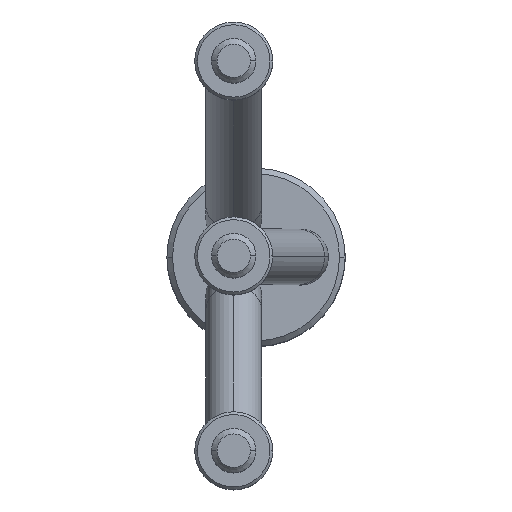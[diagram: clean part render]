
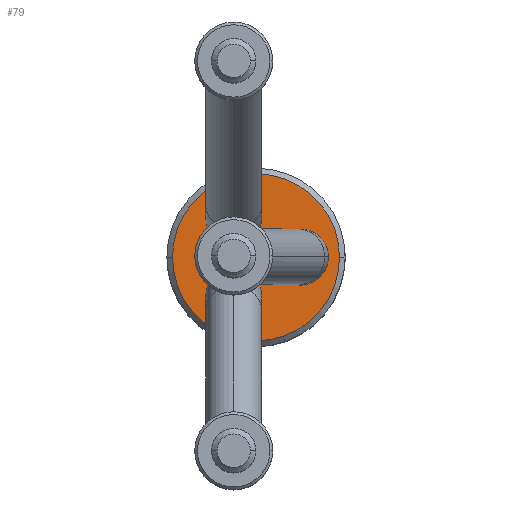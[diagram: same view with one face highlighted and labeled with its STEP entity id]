
A CAD part, top view. The second image highlights one B-rep face of the part: STEP entity #79.
In plain terms, the highlighted planar face has unit normal (0, 0, 1).
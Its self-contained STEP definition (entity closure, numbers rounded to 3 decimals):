
#30 = EDGE_CURVE ( 'NONE', #540, #1123, #804, .T. ) ;
#40 = EDGE_CURVE ( 'NONE', #607, #458, #813, .T. ) ;
#79 = ADVANCED_FACE ( 'NONE', ( #709, #711, #713, #714 ), #715, .F. ) ;
#202 = CARTESIAN_POINT ( 'NONE',  ( 1., -6.928, 85. ) ) ;
#231 = CARTESIAN_POINT ( 'NONE',  ( -15., 0., 85. ) ) ;
#248 = CARTESIAN_POINT ( 'NONE',  ( -9., 6.928, 85. ) ) ;
#249 = CARTESIAN_POINT ( 'NONE',  ( 3., 0., 85. ) ) ;
#257 = CARTESIAN_POINT ( 'NONE',  ( 13., 0., 85. ) ) ;
#271 = CARTESIAN_POINT ( 'NONE',  ( -9., -6.928, 85. ) ) ;
#277 = CARTESIAN_POINT ( 'NONE',  ( 15., 0., 85. ) ) ;
#290 = CARTESIAN_POINT ( 'NONE',  ( 1., 6.928, 85. ) ) ;
#299 = CARTESIAN_POINT ( 'NONE',  ( 8., 0., 85. ) ) ;
#300 = DIRECTION ( 'NONE',  ( 0., 0., -1. ) ) ;
#301 = DIRECTION ( 'NONE',  ( 0., -1., 0. ) ) ;
#410 = EDGE_CURVE ( 'NONE', #1123, #540, #500, .T. ) ;
#421 = EDGE_CURVE ( 'NONE', #458, #607, #2526, .T. ) ;
#426 = EDGE_CURVE ( 'NONE', #594, #541, #2535, .T. ) ;
#441 = EDGE_CURVE ( 'NONE', #489, #857, #1432, .T. ) ;
#458 = VERTEX_POINT ( 'NONE', #202 ) ;
#489 = VERTEX_POINT ( 'NONE', #231 ) ;
#500 = CIRCLE ( 'NONE', #503, 5. ) ;
#503 = AXIS2_PLACEMENT_3D ( 'NONE', #957, #958, #959 ) ;
#540 = VERTEX_POINT ( 'NONE', #248 ) ;
#541 = VERTEX_POINT ( 'NONE', #249 ) ;
#594 = VERTEX_POINT ( 'NONE', #257 ) ;
#607 = VERTEX_POINT ( 'NONE', #271 ) ;
#709 = FACE_OUTER_BOUND ( 'NONE', #998, .T. ) ;
#710 = CARTESIAN_POINT ( 'NONE',  ( 0., 0., 85. ) ) ;
#711 = FACE_BOUND ( 'NONE', #995, .T. ) ;
#713 = FACE_BOUND ( 'NONE', #1003, .T. ) ;
#714 = FACE_BOUND ( 'NONE', #1596, .T. ) ;
#715 = PLANE ( 'NONE',  #1567 ) ;
#716 = DIRECTION ( 'NONE',  ( 0., 0., -1. ) ) ;
#717 = DIRECTION ( 'NONE',  ( -1., 0., 0. ) ) ;
#798 = AXIS2_PLACEMENT_3D ( 'NONE', #2213, #2214, #2215 ) ;
#804 = CIRCLE ( 'NONE', #798, 5. ) ;
#813 = CIRCLE ( 'NONE', #825, 5. ) ;
#825 = AXIS2_PLACEMENT_3D ( 'NONE', #2256, #2257, #2258 ) ;
#857 = VERTEX_POINT ( 'NONE', #277 ) ;
#957 = CARTESIAN_POINT ( 'NONE',  ( -4., 6.928, 85. ) ) ;
#958 = DIRECTION ( 'NONE',  ( 0., 0., -1. ) ) ;
#959 = DIRECTION ( 'NONE',  ( -1., 0., 0. ) ) ;
#995 = EDGE_LOOP ( 'NONE', ( #1656, #1657 ) ) ;
#998 = EDGE_LOOP ( 'NONE', ( #1654, #1655 ) ) ;
#1003 = EDGE_LOOP ( 'NONE', ( #1658, #1659 ) ) ;
#1123 = VERTEX_POINT ( 'NONE', #290 ) ;
#1156 = CIRCLE ( 'NONE', #1159, 15. ) ;
#1159 = AXIS2_PLACEMENT_3D ( 'NONE', #2709, #2710, #2711 ) ;
#1299 = EDGE_CURVE ( 'NONE', #541, #594, #1390, .T. ) ;
#1385 = AXIS2_PLACEMENT_3D ( 'NONE', #299, #300, #301 ) ;
#1390 = CIRCLE ( 'NONE', #1385, 5. ) ;
#1407 = AXIS2_PLACEMENT_3D ( 'NONE', #2435, #2436, #2437 ) ;
#1432 = CIRCLE ( 'NONE', #1435, 15. ) ;
#1435 = AXIS2_PLACEMENT_3D ( 'NONE', #2493, #2494, #2495 ) ;
#1567 = AXIS2_PLACEMENT_3D ( 'NONE', #710, #716, #717 ) ;
#1596 = EDGE_LOOP ( 'NONE', ( #1660, #1661 ) ) ;
#1654 = ORIENTED_EDGE ( 'NONE', *, *, #2565, .F. ) ;
#1655 = ORIENTED_EDGE ( 'NONE', *, *, #441, .F. ) ;
#1656 = ORIENTED_EDGE ( 'NONE', *, *, #40, .T. ) ;
#1657 = ORIENTED_EDGE ( 'NONE', *, *, #421, .T. ) ;
#1658 = ORIENTED_EDGE ( 'NONE', *, *, #30, .T. ) ;
#1659 = ORIENTED_EDGE ( 'NONE', *, *, #410, .T. ) ;
#1660 = ORIENTED_EDGE ( 'NONE', *, *, #1299, .T. ) ;
#1661 = ORIENTED_EDGE ( 'NONE', *, *, #426, .T. ) ;
#2213 = CARTESIAN_POINT ( 'NONE',  ( -4., 6.928, 85. ) ) ;
#2214 = DIRECTION ( 'NONE',  ( 0., 0., -1. ) ) ;
#2215 = DIRECTION ( 'NONE',  ( -1., 0., 0. ) ) ;
#2256 = CARTESIAN_POINT ( 'NONE',  ( -4., -6.928, 85. ) ) ;
#2257 = DIRECTION ( 'NONE',  ( 0., 0., -1. ) ) ;
#2258 = DIRECTION ( 'NONE',  ( 0., -1., 0. ) ) ;
#2422 = CARTESIAN_POINT ( 'NONE',  ( -4., -6.928, 85. ) ) ;
#2423 = DIRECTION ( 'NONE',  ( 0., 0., -1. ) ) ;
#2424 = DIRECTION ( 'NONE',  ( 0., -1., 0. ) ) ;
#2435 = CARTESIAN_POINT ( 'NONE',  ( 8., 0., 85. ) ) ;
#2436 = DIRECTION ( 'NONE',  ( 0., 0., -1. ) ) ;
#2437 = DIRECTION ( 'NONE',  ( 0., -1., 0. ) ) ;
#2493 = CARTESIAN_POINT ( 'NONE',  ( 0., 0., 85. ) ) ;
#2494 = DIRECTION ( 'NONE',  ( 0., 0., -1. ) ) ;
#2495 = DIRECTION ( 'NONE',  ( -1., 0., 0. ) ) ;
#2526 = CIRCLE ( 'NONE', #2531, 5. ) ;
#2531 = AXIS2_PLACEMENT_3D ( 'NONE', #2422, #2423, #2424 ) ;
#2535 = CIRCLE ( 'NONE', #1407, 5. ) ;
#2565 = EDGE_CURVE ( 'NONE', #857, #489, #1156, .T. ) ;
#2709 = CARTESIAN_POINT ( 'NONE',  ( 0., 0., 85. ) ) ;
#2710 = DIRECTION ( 'NONE',  ( 0., 0., -1. ) ) ;
#2711 = DIRECTION ( 'NONE',  ( -1., 0., 0. ) ) ;
